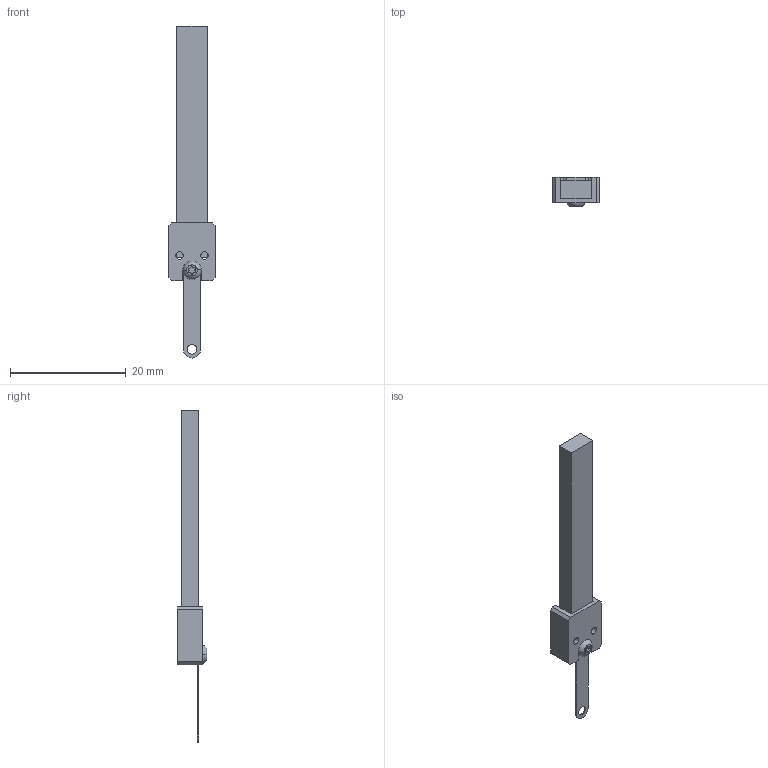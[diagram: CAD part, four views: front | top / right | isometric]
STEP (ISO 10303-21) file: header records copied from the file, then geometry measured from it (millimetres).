
FILE_DESCRIPTION (( 'STEP AP214' ), '1' );
FILE_NAME ('LT4050A_DriveRod_040D1D2-PiezoMotor.STEP', '2017-08-14T09:37:47', ( '' ), ( '' ), 'SwSTEP 2.0', 'SolidWorks 2016', '' );
FILE_SCHEMA (( 'AUTOMOTIVE_DESIGN' ));
Length unit declared in the file: millimetre
Products named in the file (1): LT4050A_DriveRod_040D1D2-PiezoMotor
Bounding box: 8 x 5.1 x 57.35 mm (x, y, z)
Volume: 862.7 mm3; surface area: 1212 mm2
Topology: 4 solids, 4 shells, 77 faces, 199 edges, 130 vertices
Faces by surface type: cylinder 35, plane 34, cone 6, torus 2
Entity records: 2476 total; most frequent: DIRECTION 439, CARTESIAN_POINT 407, ORIENTED_EDGE 398, EDGE_CURVE 199, AXIS2_PLACEMENT_3D 162, VERTEX_POINT 130, LINE 115, VECTOR 115
